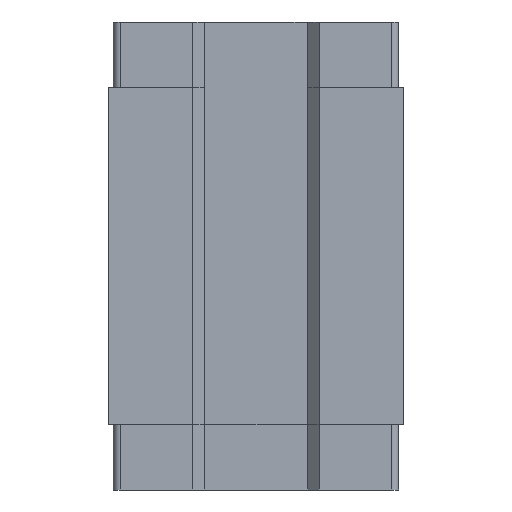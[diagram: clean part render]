
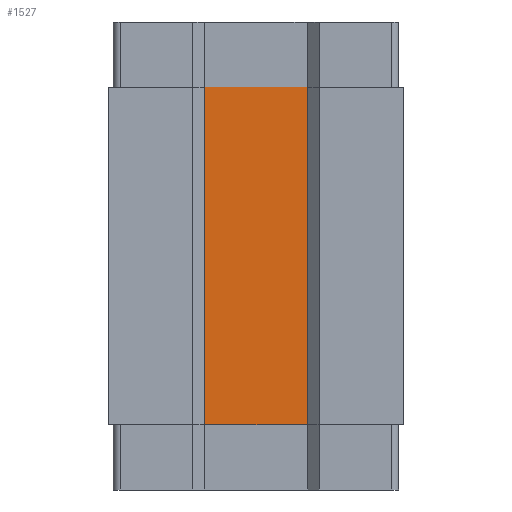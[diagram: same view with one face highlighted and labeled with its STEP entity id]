
A CAD part, front view. The second image highlights one B-rep face of the part: STEP entity #1527.
In plain terms, the highlighted planar face has unit normal (0, -1, 0).
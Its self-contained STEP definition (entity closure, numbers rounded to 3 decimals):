
#13 = EDGE_CURVE ( 'NONE', #4457, #8161, #8548, .T. ) ;
#22 = EDGE_LOOP ( 'NONE', ( #160, #9226, #2876, #5593, #1376, #7271 ) ) ;
#160 = ORIENTED_EDGE ( 'NONE', *, *, #305, .F. ) ;
#305 = EDGE_CURVE ( 'NONE', #4457, #4307, #9265, .T. ) ;
#842 = EDGE_CURVE ( 'NONE', #1710, #4466, #10351, .T. ) ;
#1145 = EDGE_CURVE ( 'NONE', #4307, #3050, #9075, .T. ) ;
#1332 = CARTESIAN_POINT ( 'NONE',  ( -25.291, -0.002, 72.1 ) ) ;
#1376 = ORIENTED_EDGE ( 'NONE', *, *, #6208, .T. ) ;
#1527 = ADVANCED_FACE ( 'NONE', ( #6596 ), #1872, .T. ) ;
#1710 = VERTEX_POINT ( 'NONE', #4652 ) ;
#1766 = EDGE_CURVE ( 'NONE', #8161, #1710, #4693, .T. ) ;
#1872 = PLANE ( 'NONE',  #3196 ) ;
#2394 = DIRECTION ( 'NONE',  ( 1., 0., 0. ) ) ;
#2466 = CARTESIAN_POINT ( 'NONE',  ( 25.291, -0.002, -72.1 ) ) ;
#2543 = DIRECTION ( 'NONE',  ( 1., 0., 0. ) ) ;
#2876 = ORIENTED_EDGE ( 'NONE', *, *, #1766, .T. ) ;
#2907 = LINE ( 'NONE', #5986, #3027 ) ;
#2937 = DIRECTION ( 'NONE',  ( 0., 0., -1. ) ) ;
#2970 = CARTESIAN_POINT ( 'NONE',  ( -25.291, -0.002, -72.1 ) ) ;
#3027 = VECTOR ( 'NONE', #5911, 1000. ) ;
#3050 = VERTEX_POINT ( 'NONE', #5510 ) ;
#3196 = AXIS2_PLACEMENT_3D ( 'NONE', #7223, #4708, #2937 ) ;
#3490 = CARTESIAN_POINT ( 'NONE',  ( -25.291, -0.002, 72.1 ) ) ;
#4307 = VERTEX_POINT ( 'NONE', #7502 ) ;
#4457 = VERTEX_POINT ( 'NONE', #9752 ) ;
#4466 = VERTEX_POINT ( 'NONE', #2466 ) ;
#4540 = VECTOR ( 'NONE', #7747, 1000. ) ;
#4652 = CARTESIAN_POINT ( 'NONE',  ( 25.291, -0.002, -72.1 ) ) ;
#4693 = LINE ( 'NONE', #2970, #4540 ) ;
#4708 = DIRECTION ( 'NONE',  ( 0., -1., 0. ) ) ;
#5510 = CARTESIAN_POINT ( 'NONE',  ( 25.291, -0.002, 72.1 ) ) ;
#5558 = DIRECTION ( 'NONE',  ( 0., 0., -1. ) ) ;
#5593 = ORIENTED_EDGE ( 'NONE', *, *, #842, .T. ) ;
#5719 = CARTESIAN_POINT ( 'NONE',  ( -23.338, -0.002, -72.1 ) ) ;
#5793 = CARTESIAN_POINT ( 'NONE',  ( -23.338, -0.002, -72.1 ) ) ;
#5911 = DIRECTION ( 'NONE',  ( 0., 0., 1. ) ) ;
#5986 = CARTESIAN_POINT ( 'NONE',  ( 25.291, -0.002, -72.1 ) ) ;
#6208 = EDGE_CURVE ( 'NONE', #4466, #3050, #2907, .T. ) ;
#6596 = FACE_OUTER_BOUND ( 'NONE', #22, .T. ) ;
#7223 = CARTESIAN_POINT ( 'NONE',  ( -25.291, -0.002, -72.1 ) ) ;
#7271 = ORIENTED_EDGE ( 'NONE', *, *, #1145, .F. ) ;
#7502 = CARTESIAN_POINT ( 'NONE',  ( 25.291, -0.002, 72.1 ) ) ;
#7747 = DIRECTION ( 'NONE',  ( 1., 0., 0. ) ) ;
#8161 = VERTEX_POINT ( 'NONE', #5719 ) ;
#8548 = LINE ( 'NONE', #5793, #8568 ) ;
#8568 = VECTOR ( 'NONE', #5558, 1000. ) ;
#9075 = LINE ( 'NONE', #3490, #9327 ) ;
#9226 = ORIENTED_EDGE ( 'NONE', *, *, #13, .T. ) ;
#9247 = DIRECTION ( 'NONE',  ( 1., 0., 0. ) ) ;
#9248 = VECTOR ( 'NONE', #2543, 1000. ) ;
#9265 = LINE ( 'NONE', #1332, #9248 ) ;
#9327 = VECTOR ( 'NONE', #2394, 1000. ) ;
#9752 = CARTESIAN_POINT ( 'NONE',  ( -23.338, -0.002, 72.1 ) ) ;
#9895 = CARTESIAN_POINT ( 'NONE',  ( -25.291, -0.002, -72.1 ) ) ;
#10326 = VECTOR ( 'NONE', #9247, 1000. ) ;
#10351 = LINE ( 'NONE', #9895, #10326 ) ;
